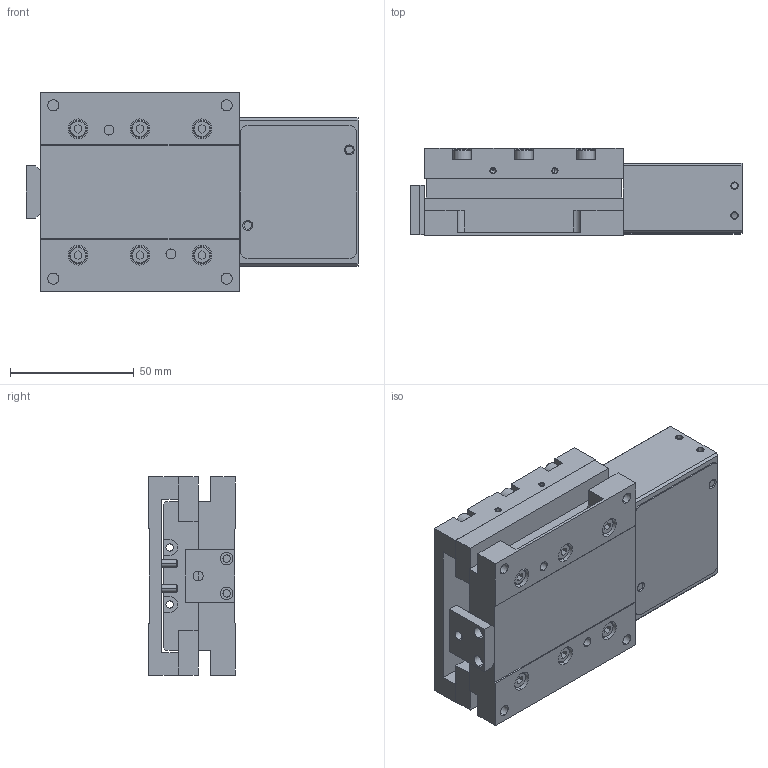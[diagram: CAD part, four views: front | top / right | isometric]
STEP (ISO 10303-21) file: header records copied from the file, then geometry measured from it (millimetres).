
FILE_DESCRIPTION((''),'2;1');
FILE_NAME('MX80S-50TVL_ASM','2003-05-23T',('FKrakosh'),(''),'PRO/ENGINEER BY PARAMETRIC TECHNOLOGY CORPORATION, 2002310','PRO/ENGINEER BY PARAMETRIC TECHNOLOGY CORPORATION, 2002310','');
FILE_SCHEMA(('CONFIG_CONTROL_DESIGN'));
Products named in the file (9): MX80S-50TVL-BASE; MX80S-BEARING-CR-50TVL; 11045210; MX80S-MOTORBLOCK; 11046111; M308S; M414S; 11045910; MX80S-50TVL_ASM
Assembly tree (21 placements, depth 2):
  MX80S-50TVL_ASM
    MX80S-50TVL-BASE
    MX80S-BEARING-CR-50TVL  x2
    11045210
    MX80S-MOTORBLOCK
    11046111
    M308S  x2
    M414S  x12
    11045910
Bounding box: 134 x 35 x 80 mm (x, y, z)
Volume: 213157.8 mm3; surface area: 77268.7 mm2
Topology: 21 solids, 43 shells, 630 faces, 1509 edges, 970 vertices
Faces by surface type: plane 266, cylinder 264, cone 100
Entity records: 13031 total; most frequent: DIRECTION 2377, CARTESIAN_POINT 2337, ORIENTED_EDGE 1954, EDGE_CURVE 1021, AXIS2_PLACEMENT_3D 924, VERTEX_POINT 674, EDGE_LOOP 543, VECTOR 529
